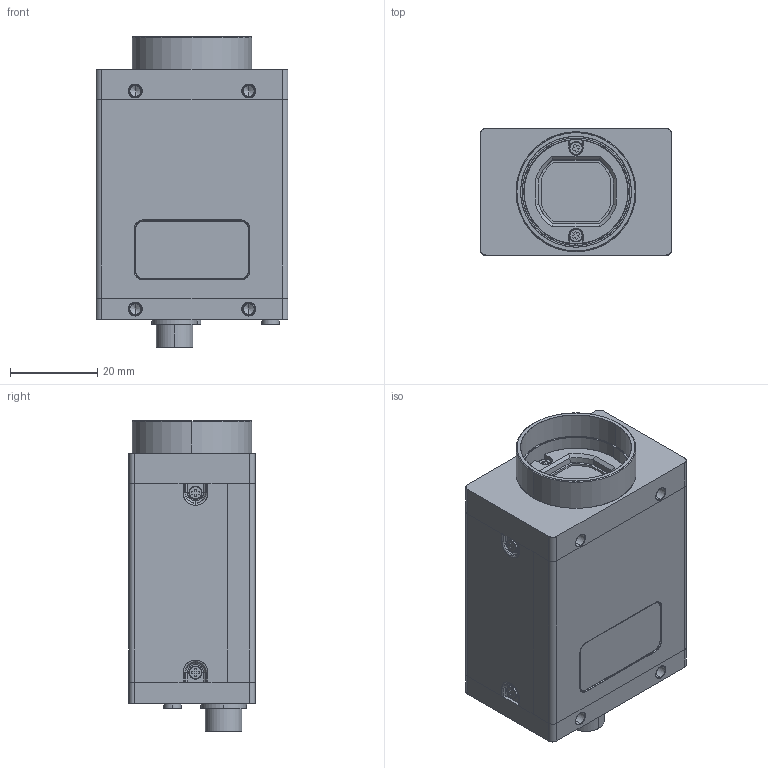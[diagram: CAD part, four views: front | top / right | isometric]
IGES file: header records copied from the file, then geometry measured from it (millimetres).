
Start section: SolidWorks IGES file using analytic representation for surfaces
Global section: file name: F:\mechanical\Documentation\Grasshopper\extracted files\GSR-006-R0.IGS; native system: SolidWorks 2014; preprocessor: SolidWorks 2014; author: gus; date: 131220.133614; units: millimetre
Bounding box: 44 x 29 x 71.28 mm (x, y, z)
Surface area: 13510.3 mm2 (no closed solid volume)
Topology: 0 solids, 0 shells, 469 faces, 4686 edges, 4666 vertices
Faces by surface type: bspline 269, revolution 200
